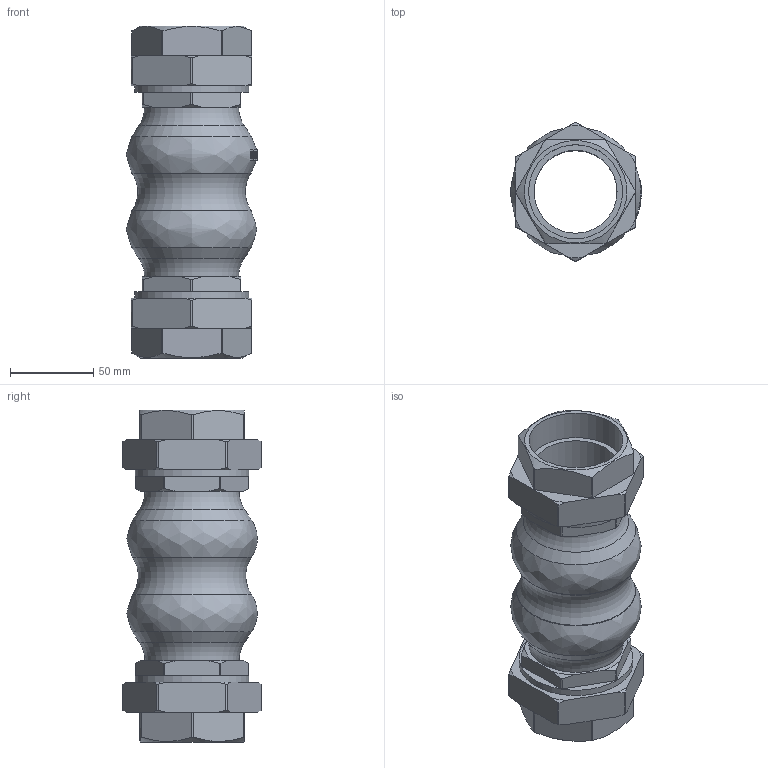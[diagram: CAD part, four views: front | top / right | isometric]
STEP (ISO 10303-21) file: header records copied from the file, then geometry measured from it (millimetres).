
FILE_DESCRIPTION(('STEP AP214'), '1');
FILE_NAME('CR-E17-T Êîìïåíñàòîð ðåçèíîâûé DN.ru Äó50 Ðó10-16', '2026-02-18T05:12:59', ('DN.RU'), (''), 'C3D Converter', 'C3D Toolkit', '');
FILE_SCHEMA(('AUTOMOTIVE_DESIGN { 1 0 10303 214 3 1 1}'));
Length unit declared in the file: millimetre
Products named in the file (1): CR-E17-T
Bounding box: 79.08 x 83.58 x 200 mm (x, y, z)
Volume: 348108.8 mm3; surface area: 87170 mm2
Topology: 1 solids, 1 shells, 203 faces, 552 edges, 368 vertices
Faces by surface type: plane 85, cone 42, cylinder 41, bspline 32, torus 3
Full cylindrical faces by diameter (mm): 50 x1, 56.656 x2, 68.656 x2
Entity records: 17140 total; most frequent: CARTESIAN_POINT 10834, ORIENTED_EDGE 1072, DIRECTION 716, EDGE_CURVE 536, VERTEX_POINT 368, AXIS2_PLACEMENT_3D 262, B_SPLINE_CURVE_WITH_KNOTS 254, EDGE_LOOP 238
